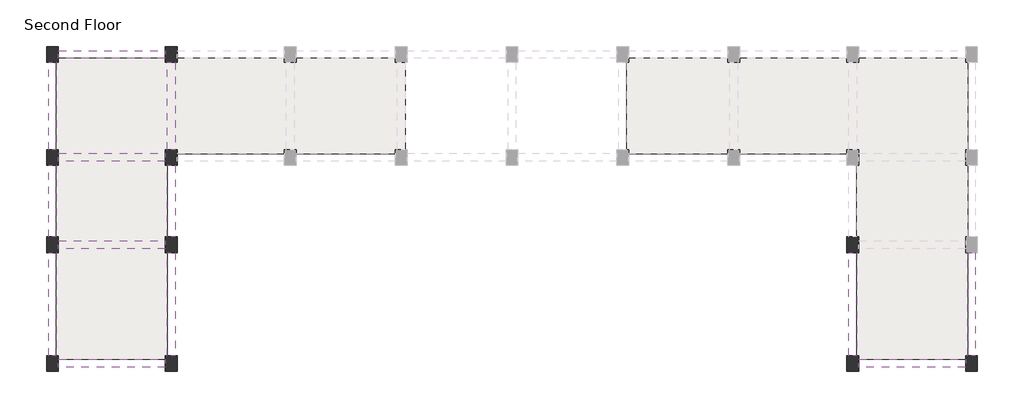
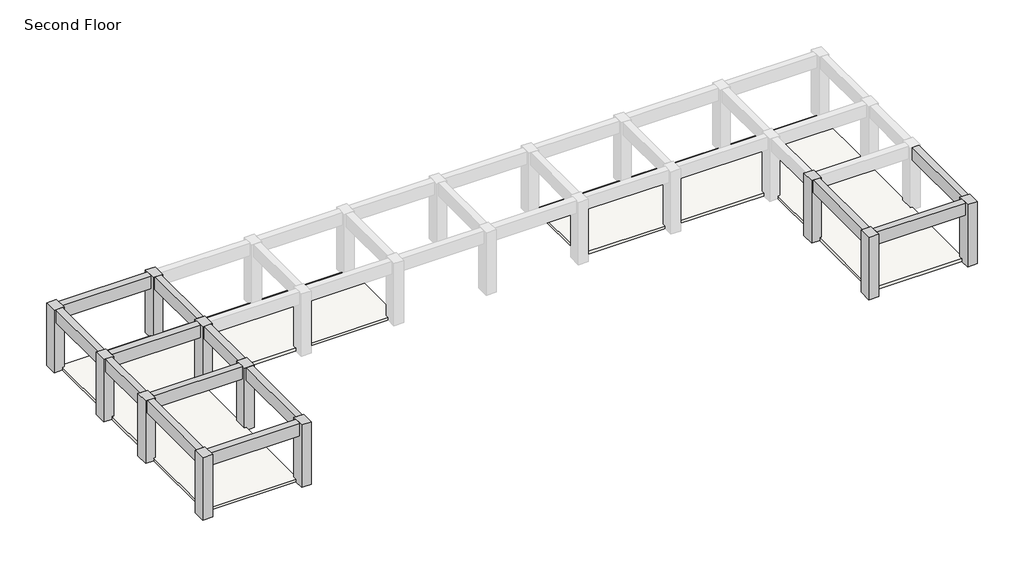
# One storey, part 1 of 2: 13 beams, 11 columns, 2 slabs.
"""IFC4 building model written with IfcOpenShell, lengths in millimetres."""

from ifc_helpers import new_model, si_unit, frame, origin, place, context, project, spatial, polyline, outline, extrude, faceted_brep, element, save

model = new_model("IFC4")

# Units and contexts
model_context = context("Model", 3, world=origin())
ifc_project = project(units=[si_unit("LENGTHUNIT", "METRE", prefix="MILLI")], contexts=[model_context])

# Site, building, storey
site = spatial("IfcSite", under=ifc_project)
building = spatial("IfcBuilding", under=site)
storey = spatial("IfcBuildingStorey", under=building, Name="Second Floor", Elevation=4267.2)

# Beams
placement = place(None, origin())
element("IfcBeam", 1, ObjectType="Concrete-Rectangular Beam : 12 x 24", at=placement, inside=storey, context=model_context, shape_type="SweptSolid", body=[
    extrude(outline(polyline([(-2839.7781752, 13750.5470864), (-2534.9781752, 13750.5470864), (-2534.9781752, 9788.1470864), (-2839.7781752, 9788.1470864), (-2839.7781752, 13750.5470864)])), frame((0.0, 0.0, 6705.6), z_axis=(0.0, 0.0, 1.0), x_axis=(1.0, 0.0, 0.0)), (0.0, 0.0, 1.0), 609.6),
])
element("IfcBeam", 2, ObjectType="Concrete-Rectangular Beam : 12 x 24", at=placement, inside=storey, context=model_context, shape_type="SweptSolid", body=[
    extrude(outline(polyline([(-7411.7781752, 13750.5470864), (-7106.9781752, 13750.5470864), (-7106.9781752, 9788.1470864), (-7411.7781752, 9788.1470864), (-7411.7781752, 13750.5470864)])), frame((0.0, 0.0, 6705.6), z_axis=(0.0, 0.0, 1.0), x_axis=(1.0, 0.0, 0.0)), (0.0, 0.0, 1.0), 609.6),
])
element("IfcBeam", 3, ObjectType="Concrete-Rectangular Beam : 12 x 24", at=placement, inside=storey, context=model_context, shape_type="SweptSolid", body=[
    extrude(outline(polyline([(-7030.7781752, 9330.9470864), (-7030.7781752, 9635.7470864), (-2915.9781752, 9635.7470864), (-2915.9781752, 9330.9470864), (-7030.7781752, 9330.9470864)])), frame((0.0, 0.0, 6705.6), z_axis=(0.0, 0.0, 1.0), x_axis=(1.0, 0.0, 0.0)), (0.0, 0.0, 1.0), 609.6),
])
element("IfcBeam", 4, ObjectType="Concrete-Rectangular Beam : 12 x 24", at=placement, inside=storey, context=model_context, shape_type="SweptSolid", body=[
    extrude(outline(polyline([(-33624.5781752, 21065.7470864), (-33319.7781752, 21065.7470864), (-33319.7781752, 17712.9470864), (-33624.5781752, 17712.9470864), (-33624.5781752, 21065.7470864)])), frame((0.0, 0.0, 6705.6), z_axis=(0.0, 0.0, 1.0), x_axis=(1.0, 0.0, 0.0)), (0.0, 0.0, 1.0), 609.6),
])
element("IfcBeam", 5, ObjectType="Concrete-Rectangular Beam : 12 x 24", at=placement, inside=storey, context=model_context, shape_type="SweptSolid", body=[
    extrude(outline(polyline([(-33700.7781752, 17560.5470864), (-33700.7781752, 17255.7470864), (-37815.5781752, 17255.7470864), (-37815.5781752, 17560.5470864), (-33700.7781752, 17560.5470864)])), frame((0.0, 0.0, 6705.6), z_axis=(0.0, 0.0, 1.0), x_axis=(1.0, 0.0, 0.0)), (0.0, 0.0, 1.0), 609.6),
])
element("IfcBeam", 6, ObjectType="Concrete-Rectangular Beam : 12 x 24", at=placement, inside=storey, context=model_context, shape_type="SweptSolid", body=[
    extrude(outline(polyline([(-33700.7781752, 14207.7470864), (-33700.7781752, 13902.9470864), (-37815.5781752, 13902.9470864), (-37815.5781752, 14207.7470864), (-33700.7781752, 14207.7470864)])), frame((0.0, 0.0, 6705.6), z_axis=(0.0, 0.0, 1.0), x_axis=(1.0, 0.0, 0.0)), (0.0, 0.0, 1.0), 609.6),
])
element("IfcBeam", 7, ObjectType="Concrete-Rectangular Beam : 12 x 24", at=placement, inside=storey, context=model_context, shape_type="SweptSolid", body=[
    extrude(outline(polyline([(-33700.7781752, 21522.9470864), (-33700.7781752, 21218.1470864), (-37815.5781752, 21218.1470864), (-37815.5781752, 21522.9470864), (-33700.7781752, 21522.9470864)])), frame((0.0, 0.0, 6705.6), z_axis=(0.0, 0.0, 1.0), x_axis=(1.0, 0.0, 0.0)), (0.0, 0.0, 1.0), 609.6),
])
element("IfcBeam", 8, ObjectType="Concrete-Rectangular Beam : 12 x 24", at=placement, inside=storey, context=model_context, shape_type="SweptSolid", body=[
    extrude(outline(polyline([(-38196.5781752, 21065.7470864), (-37891.7781752, 21065.7470864), (-37891.7781752, 17712.9470864), (-38196.5781752, 17712.9470864), (-38196.5781752, 21065.7470864)])), frame((0.0, 0.0, 6705.6), z_axis=(0.0, 0.0, 1.0), x_axis=(1.0, 0.0, 0.0)), (0.0, 0.0, 1.0), 609.6),
])
element("IfcBeam", 9, ObjectType="Concrete-Rectangular Beam : 12 x 24", at=placement, inside=storey, context=model_context, shape_type="SweptSolid", body=[
    extrude(outline(polyline([(-38196.5781752, 17103.3470864), (-37891.7781752, 17103.3470864), (-37891.7781752, 14360.1470864), (-38196.5781752, 14360.1470864), (-38196.5781752, 17103.3470864)])), frame((0.0, 0.0, 6705.6), z_axis=(0.0, 0.0, 1.0), x_axis=(1.0, 0.0, 0.0)), (0.0, 0.0, 1.0), 609.6),
])
element("IfcBeam", 10, ObjectType="Concrete-Rectangular Beam : 12 x 24", at=placement, inside=storey, context=model_context, shape_type="SweptSolid", body=[
    extrude(outline(polyline([(-38196.5781752, 13750.5470864), (-37891.7781752, 13750.5470864), (-37891.7781752, 9788.1470864), (-38196.5781752, 9788.1470864), (-38196.5781752, 13750.5470864)])), frame((0.0, 0.0, 6705.6), z_axis=(0.0, 0.0, 1.0), x_axis=(1.0, 0.0, 0.0)), (0.0, 0.0, 1.0), 609.6),
])
element("IfcBeam", 11, ObjectType="Concrete-Rectangular Beam : 12 x 24", at=placement, inside=storey, context=model_context, shape_type="SweptSolid", body=[
    extrude(outline(polyline([(-33624.5781752, 17103.3470864), (-33319.7781752, 17103.3470864), (-33319.7781752, 14360.1470864), (-33624.5781752, 14360.1470864), (-33624.5781752, 17103.3470864)])), frame((0.0, 0.0, 6705.6), z_axis=(0.0, 0.0, 1.0), x_axis=(1.0, 0.0, 0.0)), (0.0, 0.0, 1.0), 609.6),
])
element("IfcBeam", 12, ObjectType="Concrete-Rectangular Beam : 12 x 24", at=placement, inside=storey, context=model_context, shape_type="SweptSolid", body=[
    extrude(outline(polyline([(-33624.5781752, 13750.5470864), (-33319.7781752, 13750.5470864), (-33319.7781752, 9788.1470864), (-33624.5781752, 9788.1470864), (-33624.5781752, 13750.5470864)])), frame((0.0, 0.0, 6705.6), z_axis=(0.0, 0.0, 1.0), x_axis=(1.0, 0.0, 0.0)), (0.0, 0.0, 1.0), 609.6),
])
element("IfcBeam", 13, ObjectType="Concrete-Rectangular Beam : 12 x 24", at=placement, inside=storey, context=model_context, shape_type="SweptSolid", body=[
    extrude(outline(polyline([(-33700.7781752, 9635.7470864), (-33700.7781752, 9330.9470864), (-37815.5781752, 9330.9470864), (-37815.5781752, 9635.7470864), (-33700.7781752, 9635.7470864)])), frame((0.0, 0.0, 6705.6), z_axis=(0.0, 0.0, 1.0), x_axis=(1.0, 0.0, 0.0)), (0.0, 0.0, 1.0), 609.6),
])

# Columns
element("IfcColumn", 14, ObjectType="Concrete-Rectangular-Column : 18 x 24", at=placement, inside=storey, context=model_context, shape_type="Brep", body=[
    faceted_brep([(-7487.9781752, 13750.5470864, 4267.2), (-7487.9781752, 14360.1470864, 4267.2), (-7106.9781752, 14360.1470864, 4267.2), (-7106.9781752, 14211.6122361, 4267.2), (-7106.9781752, 13750.5470864, 4267.2), (-7030.7781752, 14360.1470864, 7315.2), (-7030.7781752, 13750.5470864, 7315.2), (-7030.7781752, 13750.5470864, 4394.2), (-7030.7781752, 14360.1470864, 4394.2), (-7487.9781752, 13750.5470864, 7315.2), (-7106.9781752, 13750.5470864, 4394.2), (-7487.9781752, 14360.1470864, 7315.2), (-7106.9781752, 14360.1470864, 4394.2), (-7106.9781752, 14211.6122361, 4394.2)], [[[0, 1, 2, 3, 4]], [[5, 6, 7, 8]], [[6, 9, 0, 4, 10, 7]], [[1, 0, 9, 11]], [[1, 11, 5, 8, 12, 2]], [[6, 5, 11, 9]], [[10, 13, 12, 8, 7]], [[3, 13, 10, 4]], [[13, 3, 2, 12]]]),
])
element("IfcColumn", 15, ObjectType="Concrete-Rectangular-Column : 18 x 24", at=placement, inside=storey, context=model_context, shape_type="Brep", body=[
    faceted_brep([(-7030.7781752, 9178.5470864, 4267.2), (-7487.9781752, 9178.5470864, 4267.2), (-7487.9781752, 9788.1470864, 4267.2), (-7106.9781752, 9788.1470864, 4267.2), (-7106.9781752, 9635.7470864, 4267.2), (-7030.7781752, 9635.7470864, 4267.2), (-7030.7781752, 9788.1470864, 7315.2), (-7030.7781752, 9178.5470864, 7315.2), (-7030.7781752, 9635.7470864, 4394.2), (-7030.7781752, 9788.1470864, 4394.2), (-7411.7781752, 9178.5470864, 7315.2), (-7487.9781752, 9178.5470864, 7315.2), (-7487.9781752, 9788.1470864, 7315.2), (-7106.9781752, 9788.1470864, 4394.2), (-7106.9781752, 9635.7470864, 4394.2)], [[[0, 1, 2, 3, 4, 5]], [[6, 7, 0, 5, 8, 9]], [[1, 0, 7, 10, 11]], [[2, 1, 11, 12]], [[2, 12, 6, 9, 13, 3]], [[7, 6, 12, 11, 10]], [[8, 14, 13, 9]], [[4, 14, 8, 5]], [[14, 4, 3, 13]]]),
])
element("IfcColumn", 16, ObjectType="Concrete-Rectangular-Column : 18 x 24", at=placement, inside=storey, context=model_context, shape_type="Brep", body=[
    faceted_brep([(-2458.7781752, 9788.1470864, 4267.2), (-2458.7781752, 9178.5470864, 4267.2), (-2915.9781752, 9178.5470864, 4267.2), (-2915.9781752, 9635.7470864, 4267.2), (-2839.7781752, 9635.7470864, 4267.2), (-2839.7781752, 9788.1470864, 4267.2), (-2458.7781752, 9788.1470864, 7315.2), (-2458.7781752, 9178.5470864, 7315.2), (-2915.9781752, 9178.5470864, 7315.2), (-2915.9781752, 9788.1470864, 7315.2), (-2915.9781752, 9788.1470864, 4394.2), (-2915.9781752, 9635.7470864, 4394.2), (-2839.7781752, 9788.1470864, 4394.2), (-2839.7781752, 9635.7470864, 4394.2)], [[[0, 1, 2, 3, 4, 5]], [[1, 0, 6, 7]], [[2, 1, 7, 8]], [[2, 8, 9, 10, 11, 3]], [[6, 0, 5, 12, 10, 9]], [[7, 6, 9, 8]], [[12, 13, 11, 10]], [[4, 13, 12, 5]], [[13, 4, 3, 11]]]),
])
element("IfcColumn", 17, ObjectType="Concrete-Rectangular-Column : 18 x 24", at=placement, inside=storey, context=model_context, shape_type="Brep", body=[
    faceted_brep([(-33700.7781752, 21675.3470864, 4267.2), (-33243.5781752, 21675.3470864, 4267.2), (-33243.5781752, 21218.1470864, 4267.2), (-33393.6051326, 21218.1470864, 4267.2), (-33700.7781752, 21218.1470864, 4267.2), (-33700.7781752, 21065.7470864, 7315.2), (-33700.7781752, 21675.3470864, 7315.2), (-33700.7781752, 21218.1470864, 4394.2), (-33700.7781752, 21065.7470864, 4394.2), (-33243.5781752, 21065.7470864, 7315.2), (-33243.5781752, 21065.7470864, 4394.2), (-33243.5781752, 21675.3470864, 7315.2), (-33243.5781752, 21218.1470864, 4394.2), (-33393.6051326, 21218.1470864, 4394.2)], [[[0, 1, 2, 3, 4]], [[5, 6, 0, 4, 7, 8]], [[9, 5, 8, 10]], [[11, 9, 10, 12, 2, 1]], [[1, 0, 6, 11]], [[6, 5, 9, 11]], [[7, 13, 12, 10, 8]], [[13, 3, 2, 12]], [[3, 13, 7, 4]]]),
])
element("IfcColumn", 18, ObjectType="Concrete-Rectangular-Column : 18 x 24", at=placement, inside=storey, context=model_context, shape_type="Brep", body=[
    faceted_brep([(-38272.7781752, 21065.7470864, 4267.2), (-38272.7781752, 21675.3470864, 4267.2), (-37815.5781752, 21675.3470864, 4267.2), (-37815.5781752, 21218.1470864, 4267.2), (-37891.7781752, 21218.1470864, 4267.2), (-37891.7781752, 21065.7470864, 4267.2), (-38272.7781752, 21065.7470864, 7315.2), (-38272.7781752, 21675.3470864, 7315.2), (-37891.7781752, 21065.7470864, 4394.2), (-37815.5781752, 21065.7470864, 4394.2), (-37815.5781752, 21065.7470864, 7315.2), (-37815.5781752, 21675.3470864, 7315.2), (-37815.5781752, 21218.1470864, 4394.2), (-37891.7781752, 21218.1470864, 4394.2)], [[[0, 1, 2, 3, 4, 5]], [[1, 0, 6, 7]], [[6, 0, 5, 8, 9, 10]], [[11, 10, 9, 12, 3, 2]], [[2, 1, 7, 11]], [[7, 6, 10, 11]], [[8, 13, 12, 9]], [[13, 4, 3, 12]], [[4, 13, 8, 5]]]),
])
element("IfcColumn", 19, ObjectType="Concrete-Rectangular-Column : 18 x 24", at=placement, inside=storey, context=model_context, shape_type="Brep", body=[
    faceted_brep([(-33243.5781752, 17560.5470864, 4267.2), (-33243.5781752, 17103.3470864, 4267.2), (-33624.5781752, 17103.3470864, 4267.2), (-33624.5781752, 17560.5470864, 4267.2), (-33700.7781752, 17103.3470864, 7315.2), (-33700.7781752, 17712.9470864, 7315.2), (-33700.7781752, 17712.9470864, 4394.2), (-33700.7781752, 17103.3470864, 4394.2), (-33243.5781752, 17103.3470864, 7315.2), (-33624.5781752, 17103.3470864, 4394.2), (-33243.5781752, 17560.5470864, 4394.2), (-33243.5781752, 17712.9470864, 4394.2), (-33243.5781752, 17712.9470864, 7315.2), (-33624.5781752, 17560.5470864, 4394.2)], [[[0, 1, 2, 3]], [[4, 5, 6, 7]], [[8, 4, 7, 9, 2, 1]], [[8, 1, 0, 10, 11, 12]], [[5, 12, 11, 6]], [[5, 4, 8, 12]], [[10, 13, 9, 7, 6, 11]], [[13, 3, 2, 9]], [[3, 13, 10, 0]]]),
])
element("IfcColumn", 20, ObjectType="Concrete-Rectangular-Column : 18 x 24", at=placement, inside=storey, context=model_context, shape_type="Brep", body=[
    faceted_brep([(-38272.7781752, 17103.3470864, 4267.2), (-38272.7781752, 17712.9470864, 4267.2), (-37891.7781752, 17712.9470864, 4267.2), (-37891.7781752, 17107.3073578, 4267.2), (-37891.7781752, 17103.3470864, 4267.2), (-38272.7781752, 17103.3470864, 7315.2), (-38272.7781752, 17712.9470864, 7315.2), (-37891.7781752, 17103.3470864, 4394.2), (-37815.5781752, 17103.3470864, 4394.2), (-37815.5781752, 17103.3470864, 7315.2), (-37815.5781752, 17712.9470864, 7315.2), (-37815.5781752, 17712.9470864, 4394.2), (-37891.7781752, 17712.9470864, 4394.2), (-37891.7781752, 17107.3073578, 4394.2)], [[[0, 1, 2, 3, 4]], [[1, 0, 5, 6]], [[5, 0, 4, 7, 8, 9]], [[10, 9, 8, 11]], [[1, 6, 10, 11, 12, 2]], [[6, 5, 9, 10]], [[7, 13, 12, 11, 8]], [[13, 3, 2, 12]], [[3, 13, 7, 4]]]),
])
element("IfcColumn", 21, ObjectType="Concrete-Rectangular-Column : 18 x 24", at=placement, inside=storey, context=model_context, shape_type="Brep", body=[
    faceted_brep([(-33243.5781752, 14360.1470864, 4267.2), (-33243.5781752, 13750.5470864, 4267.2), (-33624.5781752, 13750.5470864, 4267.2), (-33624.5781752, 14211.6122361, 4267.2), (-33624.5781752, 14360.1470864, 4267.2), (-33700.7781752, 13750.5470864, 7315.2), (-33700.7781752, 14360.1470864, 7315.2), (-33700.7781752, 14360.1470864, 4394.2), (-33700.7781752, 13750.5470864, 4394.2), (-33243.5781752, 13750.5470864, 7315.2), (-33624.5781752, 13750.5470864, 4394.2), (-33243.5781752, 14360.1470864, 7315.2), (-33624.5781752, 14360.1470864, 4394.2), (-33624.5781752, 14211.6122361, 4394.2)], [[[0, 1, 2, 3, 4]], [[5, 6, 7, 8]], [[9, 5, 8, 10, 2, 1]], [[1, 0, 11, 9]], [[11, 0, 4, 12, 7, 6]], [[6, 5, 9, 11]], [[12, 13, 10, 8, 7]], [[13, 3, 2, 10]], [[3, 13, 12, 4]]]),
])
element("IfcColumn", 22, ObjectType="Concrete-Rectangular-Column : 18 x 24", at=placement, inside=storey, context=model_context, shape_type="Brep", body=[
    faceted_brep([(-38272.7781752, 13750.5470864, 4267.2), (-38272.7781752, 14360.1470864, 4267.2), (-37891.7781752, 14360.1470864, 4267.2), (-37891.7781752, 14203.6458879, 4267.2), (-37891.7781752, 13750.5470864, 4267.2), (-38272.7781752, 13750.5470864, 7315.2), (-38272.7781752, 14360.1470864, 7315.2), (-37891.7781752, 13750.5470864, 4394.2), (-37815.5781752, 13750.5470864, 4394.2), (-37815.5781752, 13750.5470864, 7315.2), (-37815.5781752, 14360.1470864, 7315.2), (-37815.5781752, 14360.1470864, 4394.2), (-37891.7781752, 14360.1470864, 4394.2), (-37891.7781752, 14203.6458879, 4394.2)], [[[0, 1, 2, 3, 4]], [[1, 0, 5, 6]], [[5, 0, 4, 7, 8, 9]], [[10, 9, 8, 11]], [[1, 6, 10, 11, 12, 2]], [[6, 5, 9, 10]], [[7, 13, 12, 11, 8]], [[13, 3, 2, 12]], [[3, 13, 7, 4]]]),
])
element("IfcColumn", 23, ObjectType="Concrete-Rectangular-Column : 18 x 24", at=placement, inside=storey, context=model_context, shape_type="Brep", body=[
    faceted_brep([(-33243.5781752, 9178.5470864, 4267.2), (-33700.7781752, 9178.5470864, 4267.2), (-33700.7781752, 9635.7470864, 4267.2), (-33624.5781752, 9635.7470864, 4267.2), (-33624.5781752, 9788.1470864, 4267.2), (-33243.5781752, 9788.1470864, 4267.2), (-33700.7781752, 9178.5470864, 7315.2), (-33700.7781752, 9788.1470864, 7315.2), (-33700.7781752, 9788.1470864, 4394.2), (-33700.7781752, 9635.7470864, 4394.2), (-33243.5781752, 9178.5470864, 7315.2), (-33243.5781752, 9788.1470864, 7315.2), (-33624.5781752, 9788.1470864, 4394.2), (-33624.5781752, 9635.7470864, 4394.2)], [[[0, 1, 2, 3, 4, 5]], [[6, 7, 8, 9, 2, 1]], [[1, 0, 10, 6]], [[0, 5, 11, 10]], [[11, 5, 4, 12, 8, 7]], [[7, 6, 10, 11]], [[12, 13, 9, 8]], [[13, 3, 2, 9]], [[3, 13, 12, 4]]]),
])
element("IfcColumn", 24, ObjectType="Concrete-Rectangular-Column : 18 x 24", at=placement, inside=storey, context=model_context, shape_type="Brep", body=[
    faceted_brep([(-38272.7781752, 9178.5470864, 4267.2), (-38272.7781752, 9788.1470864, 4267.2), (-37891.7781752, 9788.1470864, 4267.2), (-37891.7781752, 9635.7470864, 4267.2), (-37815.5781752, 9635.7470864, 4267.2), (-37815.5781752, 9178.5470864, 4267.2), (-38272.7781752, 9178.5470864, 7315.2), (-38272.7781752, 9788.1470864, 7315.2), (-37815.5781752, 9178.5470864, 7315.2), (-37815.5781752, 9635.7470864, 4394.2), (-37815.5781752, 9788.1470864, 4394.2), (-37815.5781752, 9788.1470864, 7315.2), (-37891.7781752, 9788.1470864, 4394.2), (-37891.7781752, 9635.7470864, 4394.2)], [[[0, 1, 2, 3, 4, 5]], [[1, 0, 6, 7]], [[0, 5, 8, 6]], [[8, 5, 4, 9, 10, 11]], [[1, 7, 11, 10, 12, 2]], [[7, 6, 8, 11]], [[9, 13, 12, 10]], [[13, 3, 2, 12]], [[3, 13, 9, 4]]]),
])

# Slabs
element("IfcSlab", 25, ObjectType="3\" LW Concrete on 2\" Metal Deck", at=placement, inside=storey, context=model_context, shape_type="Brep", body=[
    faceted_brep([(-15946.1781752, 17560.5470864, 4267.2), (-15946.1781752, 17712.9470864, 4267.2), (-15946.1781752, 21065.7470864, 4267.2), (-15946.1781752, 21218.1470864, 4267.2), (-15869.9781752, 21218.1470864, 4267.2), (-12059.9781752, 21218.1470864, 4267.2), (-11602.7781752, 21218.1470864, 4267.2), (-11500.8917982, 21218.1470864, 4267.2), (-7487.9781752, 21218.1470864, 4267.2), (-7337.9512179, 21218.1470864, 4267.2), (-7030.7781752, 21218.1470864, 4267.2), (-2915.9781752, 21218.1470864, 4267.2), (-2839.7781752, 21218.1470864, 4267.2), (-2839.7781752, 21065.7470864, 4267.2), (-2839.7781752, 17712.9470864, 4267.2), (-2839.7781752, 17107.3073578, 4267.2), (-2839.7781752, 17103.3470864, 4267.2), (-2839.7781752, 14360.1470864, 4267.2), (-2839.7781752, 14203.6458879, 4267.2), (-2839.7781752, 13750.5470864, 4267.2), (-2839.7781752, 9788.1470864, 4267.2), (-2839.7781752, 9635.7470864, 4267.2), (-2915.9781752, 9635.7470864, 4267.2), (-7030.7781752, 9635.7470864, 4267.2), (-7106.9781752, 9635.7470864, 4267.2), (-7106.9781752, 9788.1470864, 4267.2), (-7106.9781752, 13750.5470864, 4267.2), (-7106.9781752, 14211.6122361, 4267.2), (-7106.9781752, 14360.1470864, 4267.2), (-7106.9781752, 17103.3470864, 4267.2), (-7106.9781752, 17560.5470864, 4267.2), (-7487.9781752, 17560.5470864, 4267.2), (-11602.7781752, 17560.5470864, 4267.2), (-11869.525863, 17560.5470864, 4267.2), (-12059.9781752, 17560.5470864, 4267.2), (-15869.9781752, 17560.5470864, 4267.2), (-15946.1781752, 17560.5470864, 4394.2), (-15869.9781752, 17560.5470864, 4394.2), (-12059.9781752, 17560.5470864, 4394.2), (-11869.525863, 17560.5470864, 4394.2), (-11602.7781752, 17560.5470864, 4394.2), (-7487.9781752, 17560.5470864, 4394.2), (-7106.9781752, 17560.5470864, 4394.2), (-7106.9781752, 17103.3470864, 4394.2), (-7106.9781752, 14360.1470864, 4394.2), (-7106.9781752, 14211.6122361, 4394.2), (-7106.9781752, 13750.5470864, 4394.2), (-7106.9781752, 9788.1470864, 4394.2), (-7106.9781752, 9635.7470864, 4394.2), (-7030.7781752, 9635.7470864, 4394.2), (-2915.9781752, 9635.7470864, 4394.2), (-2839.7781752, 9635.7470864, 4394.2), (-2839.7781752, 9788.1470864, 4394.2), (-2839.7781752, 13750.5470864, 4394.2), (-2839.7781752, 14203.6458879, 4394.2), (-2839.7781752, 14360.1470864, 4394.2), (-2839.7781752, 17103.3470864, 4394.2), (-2839.7781752, 17107.3073578, 4394.2), (-2839.7781752, 17712.9470864, 4394.2), (-2839.7781752, 21065.7470864, 4394.2), (-2839.7781752, 21218.1470864, 4394.2), (-2915.9781752, 21218.1470864, 4394.2), (-7030.7781752, 21218.1470864, 4394.2), (-7337.9512179, 21218.1470864, 4394.2), (-7487.9781752, 21218.1470864, 4394.2), (-11500.8917982, 21218.1470864, 4394.2), (-11602.7781752, 21218.1470864, 4394.2), (-12059.9781752, 21218.1470864, 4394.2), (-15869.9781752, 21218.1470864, 4394.2), (-15946.1781752, 21218.1470864, 4394.2), (-15946.1781752, 21065.7470864, 4394.2), (-15946.1781752, 17712.9470864, 4394.2)], [[[0, 1, 2, 3, 4, 5, 6, 7, 8, 9, 10, 11, 12, 13, 14, 15, 16, 17, 18, 19, 20, 21, 22, 23, 24, 25, 26, 27, 28, 29, 30, 31, 32, 33, 34, 35]], [[36, 37, 38, 39, 40, 41, 42, 43, 44, 45, 46, 47, 48, 49, 50, 51, 52, 53, 54, 55, 56, 57, 58, 59, 60, 61, 62, 63, 64, 65, 66, 67, 68, 69, 70, 71]], [[3, 2, 1, 0, 36, 71, 70, 69]], [[7, 6, 5, 4, 3, 69, 68, 67, 66, 65]], [[9, 8, 7, 65, 64, 63]], [[12, 11, 10, 9, 63, 62, 61, 60]], [[15, 14, 13, 12, 60, 59, 58, 57]], [[18, 17, 16, 15, 57, 56, 55, 54]], [[21, 20, 19, 18, 54, 53, 52, 51]], [[24, 23, 22, 21, 51, 50, 49, 48]], [[27, 26, 25, 24, 48, 47, 46, 45]], [[30, 29, 28, 27, 45, 44, 43, 42]], [[33, 32, 31, 30, 42, 41, 40, 39]], [[0, 35, 34, 33, 39, 38, 37, 36]]]),
])
element("IfcSlab", 26, ObjectType="3\" LW Concrete on 2\" Metal Deck", at=placement, inside=storey, context=model_context, shape_type="Brep", body=[
    faceted_brep([(-24480.5781752, 17560.5470864, 4267.2), (-24861.5781752, 17560.5470864, 4267.2), (-28671.5781752, 17560.5470864, 4267.2), (-28862.0304875, 17560.5470864, 4267.2), (-29128.7781752, 17560.5470864, 4267.2), (-33243.5781752, 17560.5470864, 4267.2), (-33624.5781752, 17560.5470864, 4267.2), (-33624.5781752, 17103.3470864, 4267.2), (-33624.5781752, 14360.1470864, 4267.2), (-33624.5781752, 14211.6122361, 4267.2), (-33624.5781752, 13750.5470864, 4267.2), (-33624.5781752, 9788.1470864, 4267.2), (-33624.5781752, 9635.7470864, 4267.2), (-33700.7781752, 9635.7470864, 4267.2), (-37815.5781752, 9635.7470864, 4267.2), (-37891.7781752, 9635.7470864, 4267.2), (-37891.7781752, 9788.1470864, 4267.2), (-37891.7781752, 13750.5470864, 4267.2), (-37891.7781752, 14203.6458879, 4267.2), (-37891.7781752, 14360.1470864, 4267.2), (-37891.7781752, 17103.3470864, 4267.2), (-37891.7781752, 17107.3073578, 4267.2), (-37891.7781752, 17712.9470864, 4267.2), (-37891.7781752, 21065.7470864, 4267.2), (-37891.7781752, 21218.1470864, 4267.2), (-37815.5781752, 21218.1470864, 4267.2), (-33700.7781752, 21218.1470864, 4267.2), (-33393.6051326, 21218.1470864, 4267.2), (-33243.5781752, 21218.1470864, 4267.2), (-29230.6645523, 21218.1470864, 4267.2), (-29128.7781752, 21218.1470864, 4267.2), (-28671.5781752, 21218.1470864, 4267.2), (-24861.5781752, 21218.1470864, 4267.2), (-24480.5781752, 21218.1470864, 4267.2), (-24480.5781752, 21065.7470864, 4267.2), (-24480.5781752, 17712.9470864, 4267.2), (-24480.5781752, 17560.5470864, 4394.2), (-24480.5781752, 17712.9470864, 4394.2), (-24480.5781752, 21065.7470864, 4394.2), (-24480.5781752, 21218.1470864, 4394.2), (-24861.5781752, 21218.1470864, 4394.2), (-28671.5781752, 21218.1470864, 4394.2), (-29128.7781752, 21218.1470864, 4394.2), (-29230.6645523, 21218.1470864, 4394.2), (-33243.5781752, 21218.1470864, 4394.2), (-33393.6051326, 21218.1470864, 4394.2), (-33700.7781752, 21218.1470864, 4394.2), (-37815.5781752, 21218.1470864, 4394.2), (-37891.7781752, 21218.1470864, 4394.2), (-37891.7781752, 21065.7470864, 4394.2), (-37891.7781752, 17712.9470864, 4394.2), (-37891.7781752, 17107.3073578, 4394.2), (-37891.7781752, 17103.3470864, 4394.2), (-37891.7781752, 14360.1470864, 4394.2), (-37891.7781752, 14203.6458879, 4394.2), (-37891.7781752, 13750.5470864, 4394.2), (-37891.7781752, 9788.1470864, 4394.2), (-37891.7781752, 9635.7470864, 4394.2), (-37815.5781752, 9635.7470864, 4394.2), (-33700.7781752, 9635.7470864, 4394.2), (-33624.5781752, 9635.7470864, 4394.2), (-33624.5781752, 9788.1470864, 4394.2), (-33624.5781752, 13750.5470864, 4394.2), (-33624.5781752, 14211.6122361, 4394.2), (-33624.5781752, 14360.1470864, 4394.2), (-33624.5781752, 17103.3470864, 4394.2), (-33624.5781752, 17560.5470864, 4394.2), (-33243.5781752, 17560.5470864, 4394.2), (-29128.7781752, 17560.5470864, 4394.2), (-28862.0304875, 17560.5470864, 4394.2), (-28671.5781752, 17560.5470864, 4394.2), (-24861.5781752, 17560.5470864, 4394.2)], [[[0, 1, 2, 3, 4, 5, 6, 7, 8, 9, 10, 11, 12, 13, 14, 15, 16, 17, 18, 19, 20, 21, 22, 23, 24, 25, 26, 27, 28, 29, 30, 31, 32, 33, 34, 35]], [[36, 37, 38, 39, 40, 41, 42, 43, 44, 45, 46, 47, 48, 49, 50, 51, 52, 53, 54, 55, 56, 57, 58, 59, 60, 61, 62, 63, 64, 65, 66, 67, 68, 69, 70, 71]], [[0, 35, 34, 33, 39, 38, 37, 36]], [[33, 32, 31, 30, 29, 43, 42, 41, 40, 39]], [[29, 28, 27, 45, 44, 43]], [[27, 26, 25, 24, 48, 47, 46, 45]], [[24, 23, 22, 21, 51, 50, 49, 48]], [[21, 20, 19, 18, 54, 53, 52, 51]], [[18, 17, 16, 15, 57, 56, 55, 54]], [[15, 14, 13, 12, 60, 59, 58, 57]], [[12, 11, 10, 9, 63, 62, 61, 60]], [[9, 8, 7, 6, 66, 65, 64, 63]], [[6, 5, 4, 3, 69, 68, 67, 66]], [[3, 2, 1, 0, 36, 71, 70, 69]]]),
])

save(model, "model.ifc")
